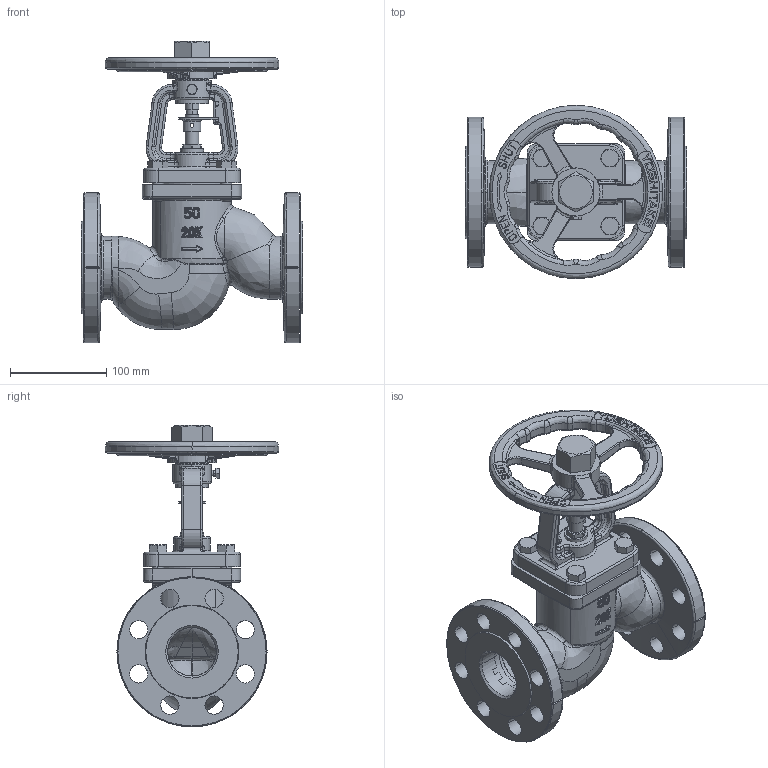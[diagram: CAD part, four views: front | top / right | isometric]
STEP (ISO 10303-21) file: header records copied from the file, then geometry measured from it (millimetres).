
FILE_DESCRIPTION( (''), '2;1');
FILE_NAME ('PC1027.9568.BSV-20F 50A_27570.stp','2025-07-28T09:45:48',(''),(''),'spGate 19.8.4 (****-****-****-****)','','');
FILE_SCHEMA (('AUTOMOTIVE_DESIGN'));
Length unit declared in the file: millimetre
Products named in the file (12): Assembly; ボンネット40-50A; グランドナット40-50A; スリーブワッシャー40-80A; スリーブ40-50A; 弁棒40-50A; ストッパー40-50A; ハンドル40-50A; ハンドルナット40-80A; CP_''_JIS B 1180 呼び径六角ボルト''_17166; CP_''_JIS B 1180 呼び径六角ボ''_(1)_17166; 本体20K 50A
Assembly tree (15 placements, depth 2):
  Assembly
    ボンネット40-50A
    グランドナット40-50A
    スリーブワッシャー40-80A  x2
    スリーブ40-50A
    弁棒40-50A
    ストッパー40-50A
    ハンドル40-50A
    ハンドルナット40-80A
    CP_''_JIS B 1180 呼び径六角ボルト''_17166  x4
    CP_''_JIS B 1180 呼び径六角ボ''_(1)_17166
    本体20K 50A
Bounding box: 230 x 180 x 313.5 mm (x, y, z)
Volume: 1508433.7 mm3; surface area: 361184.4 mm2
Topology: 15 solids, 15 shells, 1824 faces, 4648 edges, 2823 vertices
Faces by surface type: bspline 929, cylinder 470, plane 416, sphere 9
Entity records: 127277 total; most frequent: CARTESIAN_POINT 58592, ORIENTED_EDGE 8782, COLOUR_RGB 6148, PRESENTATION_STYLE_ASSIGNMENT 6148, STYLED_ITEM 6148, DIRECTION 5020, EDGE_CURVE 4391, DRAUGHTING_PRE_DEFINED_CURVE_FONT 4391
